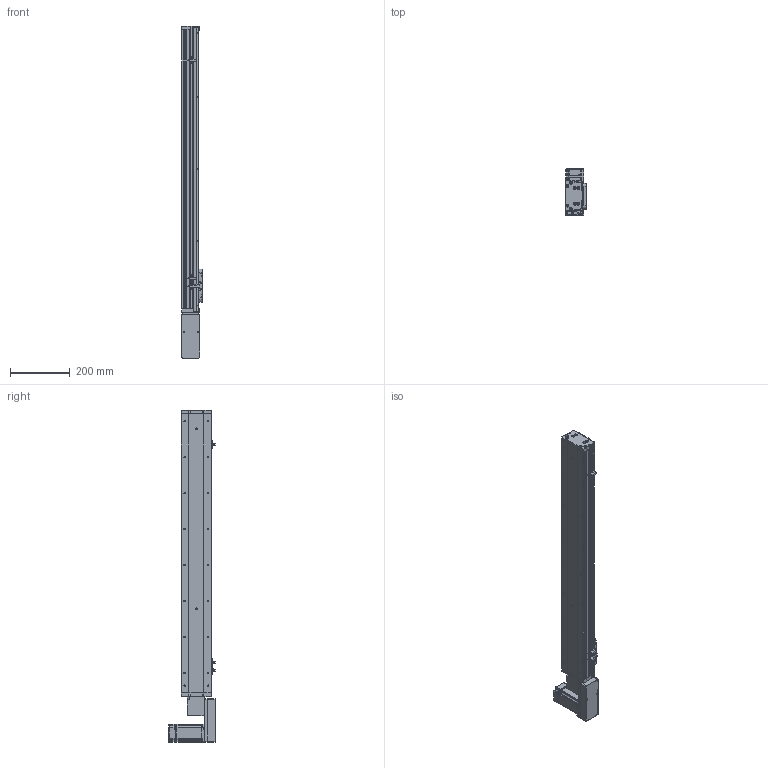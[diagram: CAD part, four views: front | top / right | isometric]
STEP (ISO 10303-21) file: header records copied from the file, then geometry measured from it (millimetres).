
FILE_DESCRIPTION (( 'STEP AP214' ), '1' );
FILE_NAME ('KSD100B-S750-MRB-CR.STEP', '2019-11-13T06:10:27', ( '微软用户' ), ( '微软中国' ), 'SwSTEP 2.0', 'SolidWorks 2014', '' );
FILE_SCHEMA (( 'AUTOMOTIVE_DESIGN' ));
Length unit declared in the file: millimetre
Products named in the file (15): 悵誘欶奻狟殏; 100宽马达安装板连板上下折丝杆同步带; U倰嫖萇EEㄜSX672; 感应片100宽全封闭; 100宽马达安装板同步带右; 100遵鎮湛假蚾啣蜊; 100宽端板同步带全封闭; 100宽滚珠螺姆安装板1防护罩; 100宽滚珠螺姆安装板1; 100遵裔啣揤啣; 100遵裔啣750俴最; 100宽侧板750行程同步带; 100宽底板全封闭750行程同步带; KSD100B-S750-MRB-CR; MHMD042G1CA_2_03
Assembly tree (18 placements, depth 2):
  KSD100B-S750-MRB-CR
    100宽底板全封闭750行程同步带
    100宽侧板750行程同步带  x2
    100遵裔啣750俴最
    100遵裔啣揤啣  x2
    100宽滚珠螺姆安装板1
    100宽滚珠螺姆安装板1防护罩
    100宽端板同步带全封闭
    100遵鎮湛假蚾啣蜊
    100宽马达安装板同步带右
    感应片100宽全封闭
    U倰嫖萇EEㄜSX672  x3
    100宽马达安装板连板上下折丝杆同步带
    悵誘欶奻狟殏
    MHMD042G1CA_2_03
Bounding box: 70 x 156.2 x 1107 mm (x, y, z)
Volume: 2058199.2 mm3; surface area: 922363.2 mm2
Topology: 17 solids, 18 shells, 1753 faces, 4894 edges, 3139 vertices
Faces by surface type: cylinder 781, plane 733, cone 219, bspline 20
Entity records: 62214 total; most frequent: CARTESIAN_POINT 9488, DIRECTION 8512, ORIENTED_EDGE 7864, EDGE_CURVE 4004, AXIS2_PLACEMENT_3D 3073, VERTEX_POINT 2657, VECTOR 2366, LINE 2366
